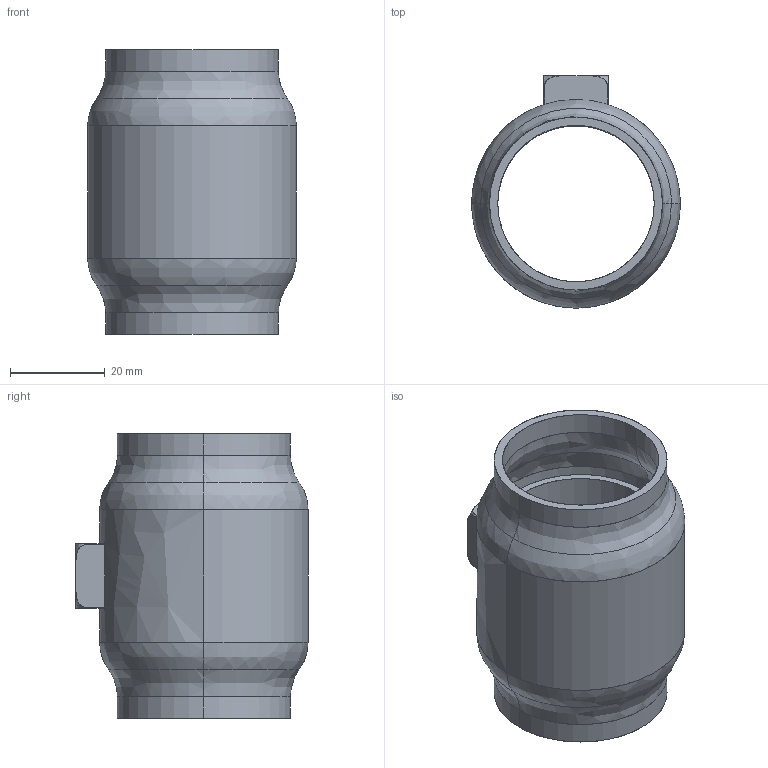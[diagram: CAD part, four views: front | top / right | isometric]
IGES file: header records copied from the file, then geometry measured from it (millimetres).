
Start section: SolidWorks IGES file using analytic representation for surfaces
Global section: file name: C:\HEMSIDA\cad\SLDPRT_2010\wn600\\wn600-32.igs; native system: SolidWorks 2010; preprocessor: SolidWorks 2010; author: Administrator; date: 101214.114948; units: millimetre
Bounding box: 44 x 49 x 60 mm (x, y, z)
Surface area: 22269.1 mm2 (no closed solid volume)
Topology: 0 solids, 0 shells, 56 faces, 1056 edges, 1056 vertices
Faces by surface type: bspline 29, revolution 27
